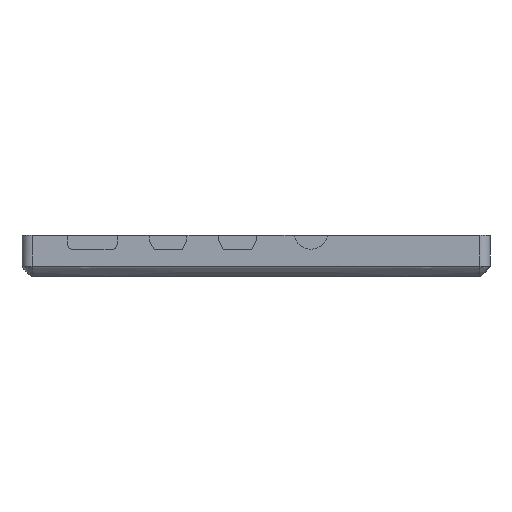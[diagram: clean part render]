
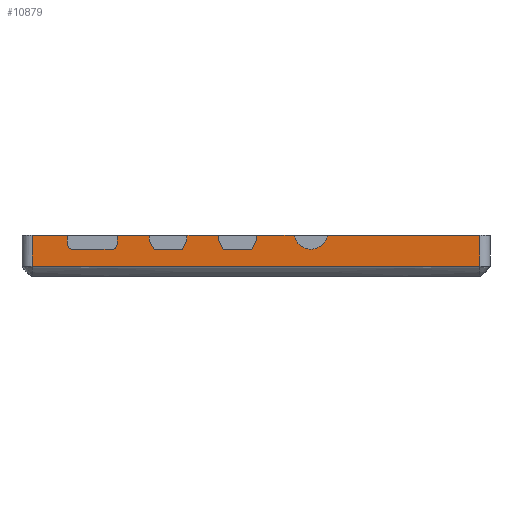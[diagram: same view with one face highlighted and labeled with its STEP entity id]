
A CAD part, front view. The second image highlights one B-rep face of the part: STEP entity #10879.
In plain terms, the highlighted planar face has unit normal (0, -1, 0).
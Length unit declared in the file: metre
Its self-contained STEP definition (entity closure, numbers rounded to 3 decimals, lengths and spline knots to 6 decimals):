
#892=B_SPLINE_CURVE_WITH_KNOTS('',3,(#16809,#16810,#16811,#16812),
 .UNSPECIFIED.,.F.,.F.,(4,4),(0.,1.),.UNSPECIFIED.);
#1043=CIRCLE('',#11560,0.0033);
#1044=CIRCLE('',#11561,0.0012);
#1045=CIRCLE('',#11562,0.0012);
#1046=CIRCLE('',#11563,0.0012);
#1047=CIRCLE('',#11564,0.0012);
#2093=ORIENTED_EDGE('',*,*,#5477,.T.);
#2094=ORIENTED_EDGE('',*,*,#5478,.T.);
#2095=ORIENTED_EDGE('',*,*,#5479,.F.);
#2096=ORIENTED_EDGE('',*,*,#5480,.T.);
#2097=ORIENTED_EDGE('',*,*,#5481,.T.);
#2098=ORIENTED_EDGE('',*,*,#5482,.T.);
#2099=ORIENTED_EDGE('',*,*,#5483,.F.);
#2100=ORIENTED_EDGE('',*,*,#5484,.F.);
#2101=ORIENTED_EDGE('',*,*,#5485,.F.);
#2102=ORIENTED_EDGE('',*,*,#5486,.F.);
#2103=ORIENTED_EDGE('',*,*,#5487,.F.);
#2104=ORIENTED_EDGE('',*,*,#5488,.T.);
#2105=ORIENTED_EDGE('',*,*,#5489,.F.);
#2106=ORIENTED_EDGE('',*,*,#5490,.F.);
#2107=ORIENTED_EDGE('',*,*,#5491,.F.);
#2108=ORIENTED_EDGE('',*,*,#5492,.F.);
#2109=ORIENTED_EDGE('',*,*,#5493,.F.);
#2110=ORIENTED_EDGE('',*,*,#5494,.T.);
#2111=ORIENTED_EDGE('',*,*,#5495,.T.);
#2112=ORIENTED_EDGE('',*,*,#5496,.T.);
#2113=ORIENTED_EDGE('',*,*,#5497,.T.);
#2114=ORIENTED_EDGE('',*,*,#5498,.F.);
#2115=ORIENTED_EDGE('',*,*,#5499,.T.);
#2116=ORIENTED_EDGE('',*,*,#5500,.F.);
#2117=ORIENTED_EDGE('',*,*,#5501,.T.);
#2118=ORIENTED_EDGE('',*,*,#5502,.T.);
#5477=EDGE_CURVE('',#7164,#7165,#7684,.T.);
#5478=EDGE_CURVE('',#7165,#7166,#892,.T.);
#5479=EDGE_CURVE('',#7167,#7166,#7685,.T.);
#5480=EDGE_CURVE('',#7167,#7168,#7686,.T.);
#5481=EDGE_CURVE('',#7168,#7169,#1043,.T.);
#5482=EDGE_CURVE('',#7169,#7170,#7687,.T.);
#5483=EDGE_CURVE('',#7171,#7170,#7688,.T.);
#5484=EDGE_CURVE('',#7172,#7171,#7689,.T.);
#5485=EDGE_CURVE('',#7173,#7172,#7690,.T.);
#5486=EDGE_CURVE('',#7174,#7173,#7691,.T.);
#5487=EDGE_CURVE('',#7175,#7174,#7692,.T.);
#5488=EDGE_CURVE('',#7175,#7176,#7693,.T.);
#5489=EDGE_CURVE('',#7177,#7176,#7694,.T.);
#5490=EDGE_CURVE('',#7178,#7177,#7695,.T.);
#5491=EDGE_CURVE('',#7179,#7178,#7696,.T.);
#5492=EDGE_CURVE('',#7180,#7179,#7697,.T.);
#5493=EDGE_CURVE('',#7181,#7180,#7698,.T.);
#5494=EDGE_CURVE('',#7181,#7182,#7699,.T.);
#5495=EDGE_CURVE('',#7182,#7183,#1044,.T.);
#5496=EDGE_CURVE('',#7183,#7184,#7700,.T.);
#5497=EDGE_CURVE('',#7184,#7185,#1045,.T.);
#5498=EDGE_CURVE('',#7186,#7185,#7701,.T.);
#5499=EDGE_CURVE('',#7186,#7187,#1046,.T.);
#5500=EDGE_CURVE('',#7188,#7187,#7702,.T.);
#5501=EDGE_CURVE('',#7188,#7189,#1047,.T.);
#5502=EDGE_CURVE('',#7189,#7164,#7703,.T.);
#7164=VERTEX_POINT('',#16807);
#7165=VERTEX_POINT('',#16808);
#7166=VERTEX_POINT('',#16813);
#7167=VERTEX_POINT('',#16815);
#7168=VERTEX_POINT('',#16817);
#7169=VERTEX_POINT('',#16819);
#7170=VERTEX_POINT('',#16821);
#7171=VERTEX_POINT('',#16823);
#7172=VERTEX_POINT('',#16825);
#7173=VERTEX_POINT('',#16827);
#7174=VERTEX_POINT('',#16829);
#7175=VERTEX_POINT('',#16831);
#7176=VERTEX_POINT('',#16833);
#7177=VERTEX_POINT('',#16835);
#7178=VERTEX_POINT('',#16837);
#7179=VERTEX_POINT('',#16839);
#7180=VERTEX_POINT('',#16841);
#7181=VERTEX_POINT('',#16843);
#7182=VERTEX_POINT('',#16845);
#7183=VERTEX_POINT('',#16847);
#7184=VERTEX_POINT('',#16849);
#7185=VERTEX_POINT('',#16851);
#7186=VERTEX_POINT('',#16853);
#7187=VERTEX_POINT('',#16855);
#7188=VERTEX_POINT('',#16857);
#7189=VERTEX_POINT('',#16859);
#7684=LINE('',#16806,#8671);
#7685=LINE('',#16814,#8672);
#7686=LINE('',#16816,#8673);
#7687=LINE('',#16820,#8674);
#7688=LINE('',#16822,#8675);
#7689=LINE('',#16824,#8676);
#7690=LINE('',#16826,#8677);
#7691=LINE('',#16828,#8678);
#7692=LINE('',#16830,#8679);
#7693=LINE('',#16832,#8680);
#7694=LINE('',#16834,#8681);
#7695=LINE('',#16836,#8682);
#7696=LINE('',#16838,#8683);
#7697=LINE('',#16840,#8684);
#7698=LINE('',#16842,#8685);
#7699=LINE('',#16844,#8686);
#7700=LINE('',#16848,#8687);
#7701=LINE('',#16852,#8688);
#7702=LINE('',#16856,#8689);
#7703=LINE('',#16860,#8690);
#8671=VECTOR('',#12460,1.);
#8672=VECTOR('',#12461,1.);
#8673=VECTOR('',#12462,1.);
#8674=VECTOR('',#12465,1.);
#8675=VECTOR('',#12466,1.);
#8676=VECTOR('',#12467,1.);
#8677=VECTOR('',#12468,1.);
#8678=VECTOR('',#12469,1.);
#8679=VECTOR('',#12470,1.);
#8680=VECTOR('',#12471,1.);
#8681=VECTOR('',#12472,1.);
#8682=VECTOR('',#12473,1.);
#8683=VECTOR('',#12474,1.);
#8684=VECTOR('',#12475,1.);
#8685=VECTOR('',#12476,1.);
#8686=VECTOR('',#12477,1.);
#8687=VECTOR('',#12480,1.);
#8688=VECTOR('',#12483,1.);
#8689=VECTOR('',#12486,1.);
#8690=VECTOR('',#12489,1.);
#9359=EDGE_LOOP('',(#2093,#2094,#2095,#2096,#2097,#2098,#2099,#2100,#2101,
#2102,#2103,#2104,#2105,#2106,#2107,#2108,#2109,#2110,#2111,#2112,#2113,
#2114,#2115,#2116,#2117,#2118));
#10046=FACE_BOUND('',#9359,.T.);
#10642=PLANE('',#11559);
#10879=ADVANCED_FACE('',(#10046),#10642,.T.);
#11559=AXIS2_PLACEMENT_3D('',#16805,#12458,#12459);
#11560=AXIS2_PLACEMENT_3D('',#16818,#12463,#12464);
#11561=AXIS2_PLACEMENT_3D('',#16846,#12478,#12479);
#11562=AXIS2_PLACEMENT_3D('',#16850,#12481,#12482);
#11563=AXIS2_PLACEMENT_3D('',#16854,#12484,#12485);
#11564=AXIS2_PLACEMENT_3D('',#16858,#12487,#12488);
#12458=DIRECTION('',(0.,-1.,0.));
#12459=DIRECTION('',(1.,0.,0.));
#12460=DIRECTION('',(0.,0.,-1.));
#12461=DIRECTION('',(0.,0.,-1.));
#12462=DIRECTION('',(-1.,0.,0.));
#12463=DIRECTION('',(0.,1.,0.));
#12464=DIRECTION('',(1.,0.,0.));
#12465=DIRECTION('',(-1.,0.,0.));
#12466=DIRECTION('',(0.,0.,1.));
#12467=DIRECTION('',(0.448,0.,0.894));
#12468=DIRECTION('',(1.,0.,0.));
#12469=DIRECTION('',(0.46,0.,-0.888));
#12470=DIRECTION('',(0.,0.,-1.));
#12471=DIRECTION('',(-1.,0.,0.));
#12472=DIRECTION('',(0.,0.,1.));
#12473=DIRECTION('',(0.43,0.,0.903));
#12474=DIRECTION('',(1.,0.,0.));
#12475=DIRECTION('',(0.439,0.,-0.899));
#12476=DIRECTION('',(0.,0.,-1.));
#12477=DIRECTION('',(-1.,0.,0.));
#12478=DIRECTION('',(0.,1.,0.));
#12479=DIRECTION('',(1.,0.,0.));
#12480=DIRECTION('',(0.,0.,-1.));
#12481=DIRECTION('',(0.,1.,0.));
#12482=DIRECTION('',(1.,0.,0.));
#12483=DIRECTION('',(1.,0.,0.));
#12484=DIRECTION('',(0.,1.,0.));
#12485=DIRECTION('',(1.,0.,0.));
#12486=DIRECTION('',(0.,0.,-1.));
#12487=DIRECTION('',(0.,1.,0.));
#12488=DIRECTION('',(1.,0.,0.));
#12489=DIRECTION('',(-1.,0.,0.));
#16805=CARTESIAN_POINT('',(0.000433,-0.029624,-0.002));
#16806=CARTESIAN_POINT('',(-0.043067,-0.029624,-0.002));
#16807=CARTESIAN_POINT('',(-0.043067,-0.029624,0.004));
#16808=CARTESIAN_POINT('',(-0.043067,-0.029624,-0.002));
#16809=CARTESIAN_POINT('',(-0.043067,-0.029624,-0.002));
#16810=CARTESIAN_POINT('',(-0.014067,-0.029624,-0.002));
#16811=CARTESIAN_POINT('',(0.014933,-0.029624,-0.002));
#16812=CARTESIAN_POINT('',(0.043933,-0.029624,-0.002));
#16813=CARTESIAN_POINT('',(0.043933,-0.029624,-0.002));
#16814=CARTESIAN_POINT('',(0.043933,-0.029624,-0.002));
#16815=CARTESIAN_POINT('',(0.043933,-0.029624,0.004));
#16816=CARTESIAN_POINT('',(0.000433,-0.029624,0.004));
#16817=CARTESIAN_POINT('',(0.014347,-0.029624,0.004));
#16818=CARTESIAN_POINT('',(0.011106,-0.029624,0.00462));
#16819=CARTESIAN_POINT('',(0.007865,-0.029624,0.004));
#16820=CARTESIAN_POINT('',(0.000433,-0.029624,0.004));
#16821=CARTESIAN_POINT('',(0.000506,-0.029624,0.004));
#16822=CARTESIAN_POINT('',(0.000506,-0.029624,0.003525));
#16823=CARTESIAN_POINT('',(0.000506,-0.029624,0.002974));
#16824=CARTESIAN_POINT('',(0.000066,-0.029624,0.002097));
#16825=CARTESIAN_POINT('',(-0.000374,-0.029624,0.00122));
#16826=CARTESIAN_POINT('',(-0.00313,-0.029624,0.00122));
#16827=CARTESIAN_POINT('',(-0.005886,-0.029624,0.00122));
#16828=CARTESIAN_POINT('',(-0.00634,-0.029624,0.002097));
#16829=CARTESIAN_POINT('',(-0.006794,-0.029624,0.002974));
#16830=CARTESIAN_POINT('',(-0.006794,-0.029624,0.003671));
#16831=CARTESIAN_POINT('',(-0.006794,-0.029624,0.004));
#16832=CARTESIAN_POINT('',(0.000433,-0.029624,0.004));
#16833=CARTESIAN_POINT('',(-0.012994,-0.029624,0.004));
#16834=CARTESIAN_POINT('',(-0.012994,-0.029624,0.003625));
#16835=CARTESIAN_POINT('',(-0.012994,-0.029624,0.003074));
#16836=CARTESIAN_POINT('',(-0.013435,-0.029624,0.002147));
#16837=CARTESIAN_POINT('',(-0.013877,-0.029624,0.00122));
#16838=CARTESIAN_POINT('',(-0.016633,-0.029624,0.00122));
#16839=CARTESIAN_POINT('',(-0.019389,-0.029624,0.00122));
#16840=CARTESIAN_POINT('',(-0.019842,-0.029624,0.002147));
#16841=CARTESIAN_POINT('',(-0.020294,-0.029624,0.003074));
#16842=CARTESIAN_POINT('',(-0.020294,-0.029624,0.003671));
#16843=CARTESIAN_POINT('',(-0.020294,-0.029624,0.004));
#16844=CARTESIAN_POINT('',(0.000433,-0.029624,0.004));
#16845=CARTESIAN_POINT('',(-0.026566,-0.029624,0.004));
#16846=CARTESIAN_POINT('',(-0.027744,-0.029624,0.00377));
#16847=CARTESIAN_POINT('',(-0.026544,-0.029624,0.00377));
#16848=CARTESIAN_POINT('',(-0.026544,-0.029624,0.00312));
#16849=CARTESIAN_POINT('',(-0.026544,-0.029624,0.00247));
#16850=CARTESIAN_POINT('',(-0.027744,-0.029624,0.00247));
#16851=CARTESIAN_POINT('',(-0.027744,-0.029624,0.00127));
#16852=CARTESIAN_POINT('',(-0.031394,-0.029624,0.00127));
#16853=CARTESIAN_POINT('',(-0.035044,-0.029624,0.00127));
#16854=CARTESIAN_POINT('',(-0.035044,-0.029624,0.00247));
#16855=CARTESIAN_POINT('',(-0.036244,-0.029624,0.00247));
#16856=CARTESIAN_POINT('',(-0.036244,-0.029624,0.00312));
#16857=CARTESIAN_POINT('',(-0.036244,-0.029624,0.00377));
#16858=CARTESIAN_POINT('',(-0.035044,-0.029624,0.00377));
#16859=CARTESIAN_POINT('',(-0.036222,-0.029624,0.004));
#16860=CARTESIAN_POINT('',(0.000433,-0.029624,0.004));
